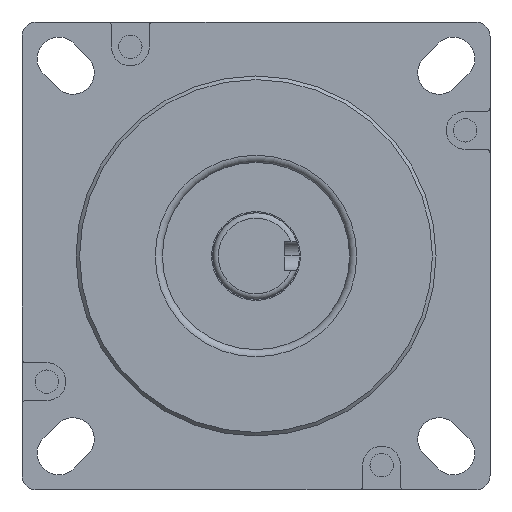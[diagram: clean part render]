
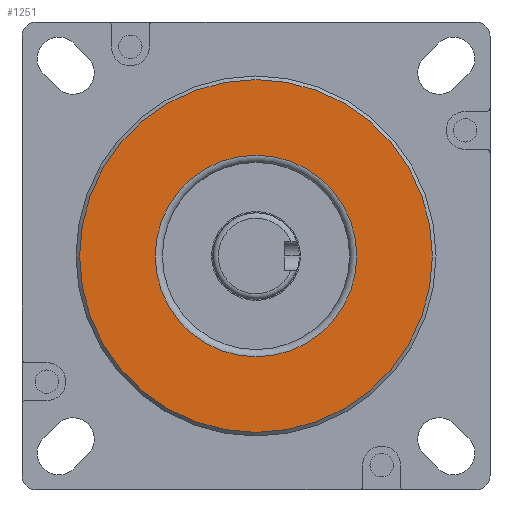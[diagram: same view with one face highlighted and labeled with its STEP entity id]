
A CAD part, front view. The second image highlights one B-rep face of the part: STEP entity #1251.
In plain terms, the highlighted planar face has unit normal (0, -1, 0).
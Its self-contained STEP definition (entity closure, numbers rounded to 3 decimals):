
#248=FACE_BOUND('',#1904,.T.);
#249=FACE_BOUND('',#1905,.T.);
#1251=ADVANCED_FACE('',(#248,#249),#1529,.T.);
#1529=PLANE('',#5236);
#1904=EDGE_LOOP('',(#2273));
#1905=EDGE_LOOP('',(#2274));
#2273=ORIENTED_EDGE('',*,*,#4250,.T.);
#2274=ORIENTED_EDGE('',*,*,#4251,.T.);
#3750=VERTEX_POINT('',#7370);
#3751=VERTEX_POINT('',#7372);
#4250=EDGE_CURVE('',#3750,#3750,#4957,.T.);
#4251=EDGE_CURVE('',#3751,#3751,#4958,.T.);
#4957=CIRCLE('',#5234,49.);
#4958=CIRCLE('',#5235,28.);
#5234=AXIS2_PLACEMENT_3D('',#7369,#5815,#5816);
#5235=AXIS2_PLACEMENT_3D('',#7371,#5817,#5818);
#5236=AXIS2_PLACEMENT_3D('',#7373,#5819,#5820);
#5815=DIRECTION('',(0.,-1.,0.));
#5816=DIRECTION('',(0.,0.,-1.));
#5817=DIRECTION('',(0.,1.,0.));
#5818=DIRECTION('',(1.,0.,0.));
#5819=DIRECTION('',(0.,-1.,0.));
#5820=DIRECTION('',(1.,0.,0.));
#7369=CARTESIAN_POINT('',(180.,-10.,50.8));
#7370=CARTESIAN_POINT('',(180.,-10.,1.8));
#7371=CARTESIAN_POINT('',(180.,-10.,50.8));
#7372=CARTESIAN_POINT('',(208.,-10.,50.8));
#7373=CARTESIAN_POINT('',(180.,-10.,50.8));
